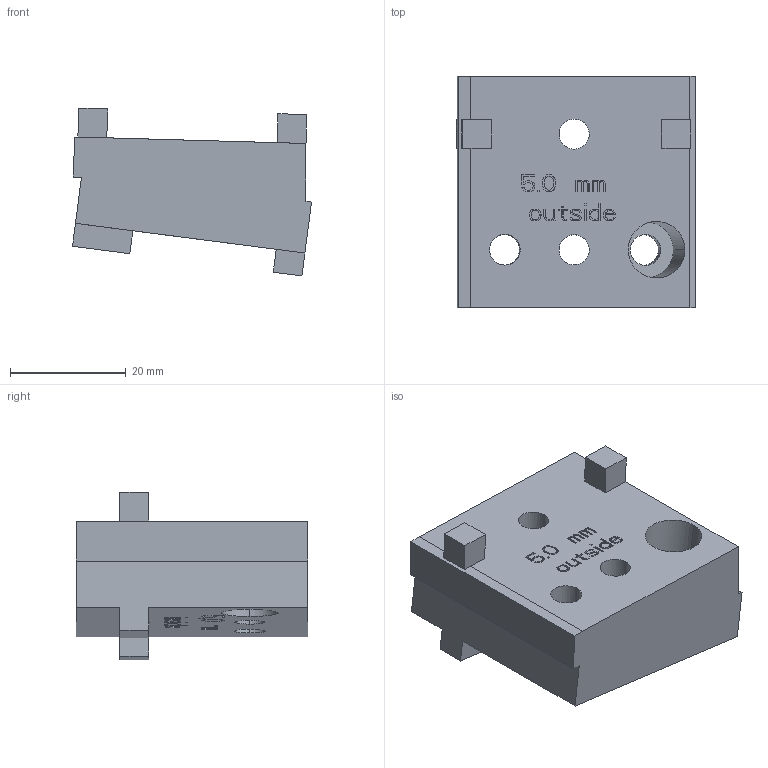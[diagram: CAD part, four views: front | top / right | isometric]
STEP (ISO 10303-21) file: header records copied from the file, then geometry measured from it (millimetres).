
FILE_DESCRIPTION((''),'2;1');
FILE_NAME('0000204228','2025-11-02T19:27:39',('Wyndorps'),(''),'CREO PARAMETRIC BY PTC INC, 2025323','CREO PARAMETRIC BY PTC INC, 2025323','');
FILE_SCHEMA(('CONFIG_CONTROL_DESIGN'));
Length unit declared in the file: millimetre
Products named in the file (1): 0000204228
Bounding box: 41.32 x 40 x 29.01 mm (x, y, z)
Volume: 24657.9 mm3; surface area: 8050.5 mm2
Topology: 1 solids, 1 shells, 788 faces, 2249 edges, 1498 vertices
Faces by surface type: plane 776, cylinder 12
Entity records: 25295 total; most frequent: CARTESIAN_POINT 4667, ORIENTED_EDGE 4498, DIRECTION 3825, EDGE_CURVE 2249, VECTOR 2225, LINE 2225, VERTEX_POINT 1498, EDGE_LOOP 831
